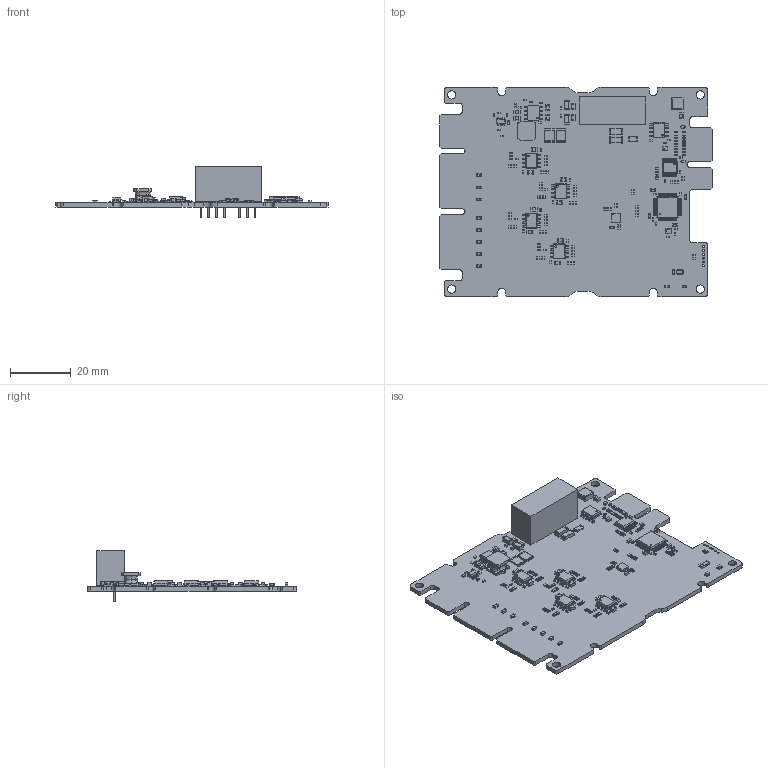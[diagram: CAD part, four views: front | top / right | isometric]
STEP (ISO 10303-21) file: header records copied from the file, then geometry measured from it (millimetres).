
FILE_DESCRIPTION(('KiCad electronic assembly'),'2;1');
FILE_NAME('TB17-001.step','2026-10-12T16:13:04',('Pcbnew'),('Kicad'), 'Open CASCADE STEP processor 7.9','KiCad to STEP converter','Unknown' );
FILE_SCHEMA(('AUTOMOTIVE_DESIGN { 1 0 10303 214 1 1 1 1 }'));
Length unit declared in the file: millimetre
Products named in the file (28): TB17-001 1; L_0402_1005Metric; C_0402_1005Metric; R_0402_1005Metric; D_0603_1608Metric; LQFP-48_7x7mm_P0.5mm; C_0805_2012Metric; SOIC-8_3.9x4.9mm_P1.27mm; D_SOD-523; SOT-23-5; C_1808_4520Metric; R_0805_2012Metric; C_1206_3216Metric; SOT-583-8; SOIC-8-1EP_3.9x4.9mm_P1.27mm_EP2.41x3.81mm; R_1206_3216Metric; WQFN-16-1EP_3x3mm_P0.5mm_EP1.6x1.6mm; SOT-553; R_1812_4532Metric; C_0603_1608Metric; L_Changjiang_FNR4018S; Converter_DCDC_TRACO_TEC2-12xxWI_24xxWI_48xxWI_THT; LED_0603_1608Metric; L_TDK_VLS6045EX_VLS6045AF; R_0603_1608Metric; Crystal_SMD_2016-4Pin_2.0x1.6mm; SSOP-16_3.9x4.9mm_P0.635mm; AD0383-ao-10v_PCB
Assembly tree (188 placements, depth 2):
  TB17-001 1
    L_0402_1005Metric  x8
    C_0402_1005Metric  x33
    R_0402_1005Metric  x89
    D_0603_1608Metric  x8
    LQFP-48_7x7mm_P0.5mm
    C_0805_2012Metric  x13
    SOIC-8_3.9x4.9mm_P1.27mm  x5
    D_SOD-523  x2
    SOT-23-5
    C_1808_4520Metric  x2
    R_0805_2012Metric  x2
    C_1206_3216Metric  x2
    SOT-583-8
    SOIC-8-1EP_3.9x4.9mm_P1.27mm_EP2.41x3.81mm
    R_1206_3216Metric
    WQFN-16-1EP_3x3mm_P0.5mm_EP1.6x1.6mm
    SOT-553
    R_1812_4532Metric  x2
    C_0603_1608Metric  x6
    L_Changjiang_FNR4018S
    Converter_DCDC_TRACO_TEC2-12xxWI_24xxWI_48xxWI_THT
    LED_0603_1608Metric  x2
    L_TDK_VLS6045EX_VLS6045AF
    R_0603_1608Metric
    Crystal_SMD_2016-4Pin_2.0x1.6mm
    SSOP-16_3.9x4.9mm_P0.635mm
    AD0383-ao-10v_PCB
Bounding box: 90 x 69 x 16.7 mm (x, y, z)
Volume: 11712.2 mm3; surface area: 15521.4 mm2
Topology: 196 solids, 196 shells, 7396 faces, 19379 edges, 12534 vertices
Faces by surface type: plane 4866, cylinder 2272, bspline 204, torus 50, sphere 4
Full cylindrical faces by diameter (mm): 0.1 x1, 0.2 x1, 0.25 x1, 0.58 x7, 0.65 x6, 1 x7, 2.7 x4
Entity records: 100841 total; most frequent: CARTESIAN_POINT 17063, ORIENTED_EDGE 13114, DIRECTION 12784, EDGE_CURVE 6558, LINE 5022, VECTOR 5022, VERTEX_POINT 4168, AXIS2_PLACEMENT_3D 3881
